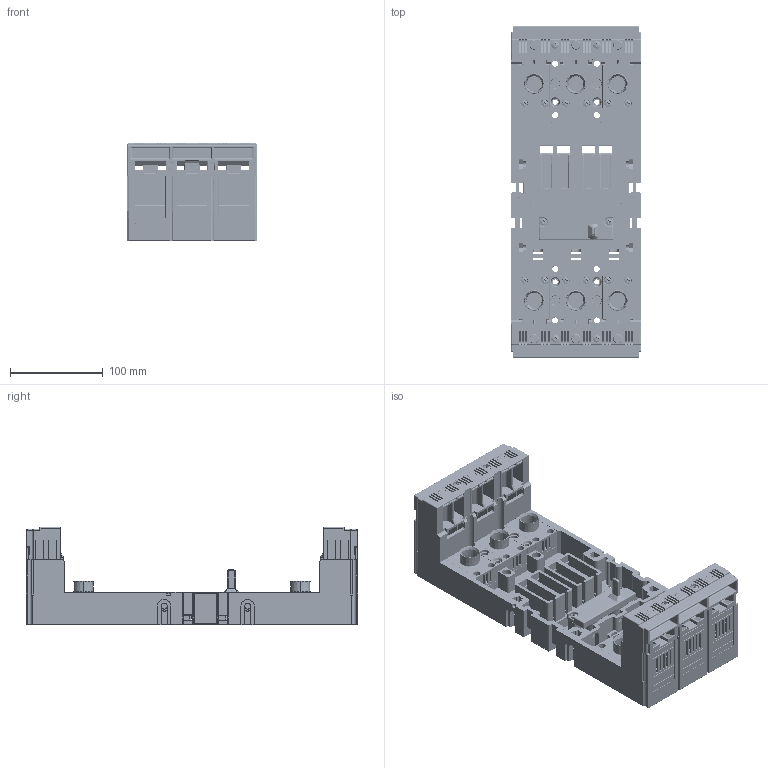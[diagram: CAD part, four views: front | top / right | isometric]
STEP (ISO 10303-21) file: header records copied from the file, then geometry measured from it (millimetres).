
FILE_DESCRIPTION (( 'STEP AP214' ), '1' );
FILE_NAME ('ZO-BH-0630-300.step', '2011-08-23T09:50:24', ( 'Radek Veselý' ), ( 'Siemens and Partners' ), 'SwSTEP 2.0', 'SolidWorks 2006303', '' );
FILE_SCHEMA (( 'AUTOMOTIVE_DESIGN' ));
Length unit declared in the file: millimetre
Products named in the file (1): ZO-BH-0630-300
Bounding box: 140 x 358 x 105 mm (x, y, z)
Volume: 1019428.6 mm3; surface area: 607105 mm2
Topology: 34 solids, 34 shells, 7177 faces, 19138 edges, 12026 vertices
Faces by surface type: plane 4452, cylinder 2052, sphere 190, bspline 174, cone 162, torus 147
Entity records: 304267 total; most frequent: CARTESIAN_POINT 47499, ORIENTED_EDGE 37852, DIRECTION 36100, EDGE_CURVE 18926, VECTOR 13482, LINE 13482, VERTEX_POINT 12026, AXIS2_PLACEMENT_3D 11309
